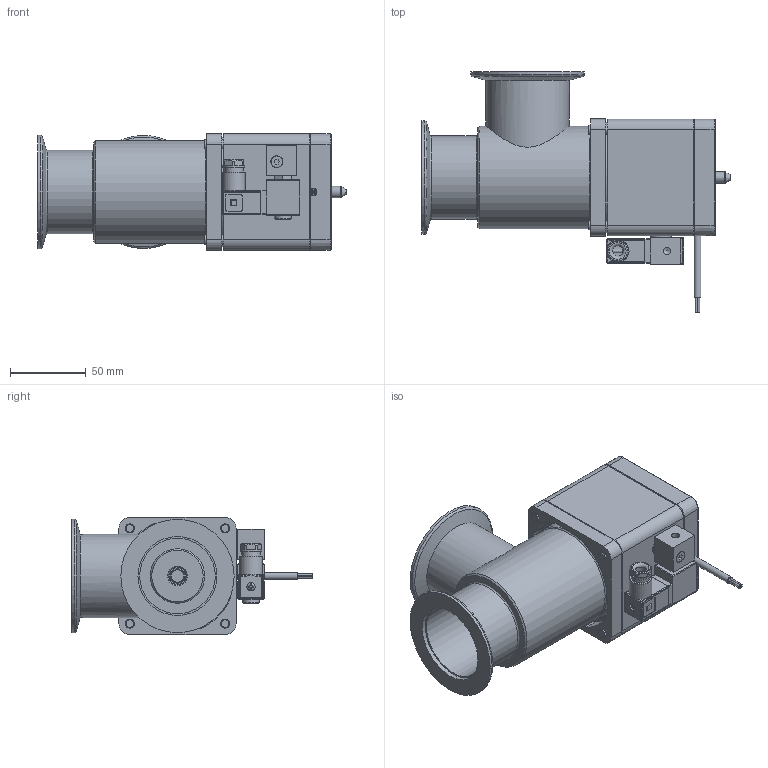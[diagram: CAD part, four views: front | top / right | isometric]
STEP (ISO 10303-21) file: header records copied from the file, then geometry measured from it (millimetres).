
FILE_DESCRIPTION(/* description */ (''),/* implementation_level */ '2;1');
FILE_NAME(/* name */ '1049962480_203.stp',/* time_stamp */ '2013-06-24T08:22:04+02:00',/* author */ (''),/* organization */ (''),/* preprocessor_version */ 'ST-DEVELOPER v11',/* originating_system */ 'SIEMENS PLM Software NX 7.5',/* authorisation */ '');
FILE_SCHEMA (('AP203_CONFIGURATION_CONTROLLED_3D_DESIGN_OF_MECHANICAL_PARTS_AND_ASSEMBLIES_MIM_LF'));
Length unit declared in the file: millimetre
Products named in the file (17): 467882; 437235; 236208.2; 245150; 239888_6.1; 236204_1.1; 248182.3; 252497.8; 248180.9; 244091.2; 224820.2; 258606.1; 256526.3; n-8501-400.2_MODELNX-ARRAGMNTArrangement 1; 245321.7_NX-ARRAGMNTLAGEMELDERZEICHNUNG; 248179.14; 363756
Assembly tree (21 placements, depth 3):
  363756
    248179.14
      248180.9
      252497.8
      248182.3
    256526.3
    258606.1
    224820.2  x4
    245321.7_NX-ARRAGMNTLAGEMELDERZEICHNUNG
      236204_1.1  x2
      239888_6.1
      245150
      236208.2  x2
    244091.2
    n-8501-400.2_MODELNX-ARRAGMNTArrangement 1
      437235
      467882
Bounding box: 203.99 x 159.2 x 77.4 mm (x, y, z)
Volume: 388307.5 mm3; surface area: 188818.9 mm2
Topology: 27 solids, 28 shells, 915 faces, 2227 edges, 1440 vertices
Faces by surface type: plane 561, cylinder 185, cone 125, bspline 24, torus 13, sphere 7
Full cylindrical faces by diameter (mm): 1.4 x8, 2 x7, 2.2 x4, 2.5 x5, 2.8 x1, 2.95 x1, 3 x5, 4.2 x1, 4.22 x1, 4.6 x2, 4.7 x2, 4.96 x4, 5 x8, 5.5 x1, 5.6 x2, 6 x12, 6.6 x4, 7.4 x2, 7.6 x1, 7.9 x1, 8 x3, 8.175 x1, 9.1 x1, 10 x5, 10.2 x1, 11.3 x1, 11.4 x1, 11.5 x1, 11.975 x3, 12.015 x2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
Entity records: 27706 total; most frequent: CARTESIAN_POINT 5762, DIRECTION 3760, ORIENTED_EDGE 3564, EDGE_CURVE 1782, AXIS2_PLACEMENT_3D 1336, VERTEX_POINT 1261, EDGE_LOOP 1111, LINE 1088
